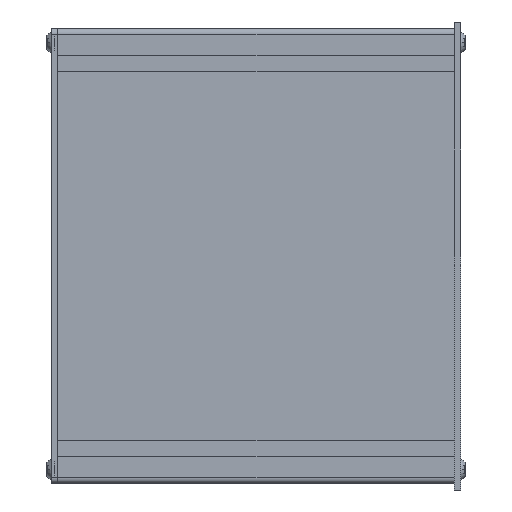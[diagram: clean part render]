
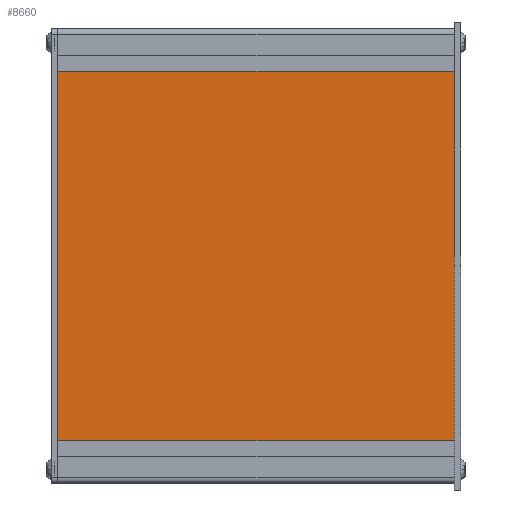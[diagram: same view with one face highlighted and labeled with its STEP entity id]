
A CAD part, left-side view. The second image highlights one B-rep face of the part: STEP entity #8660.
In plain terms, the highlighted planar face has unit normal (-1, 0, 0).
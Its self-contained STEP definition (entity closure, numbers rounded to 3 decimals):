
#952=PLANE('',#9524);
#1250=FACE_OUTER_BOUND('',#1790,.T.);
#1790=EDGE_LOOP('',(#6637,#6638,#6639,#6640));
#2564=LINE('',#13700,#3252);
#2574=LINE('',#13721,#3262);
#2575=LINE('',#13723,#3263);
#2576=LINE('',#13724,#3264);
#3252=VECTOR('',#10976,10.);
#3262=VECTOR('',#10994,10.);
#3263=VECTOR('',#10995,10.);
#3264=VECTOR('',#10996,10.);
#4260=VERTEX_POINT('',#13693);
#4263=VERTEX_POINT('',#13698);
#4270=VERTEX_POINT('',#13720);
#4271=VERTEX_POINT('',#13722);
#5115=EDGE_CURVE('',#4260,#4263,#2564,.T.);
#5125=EDGE_CURVE('',#4260,#4270,#2574,.T.);
#5126=EDGE_CURVE('',#4271,#4263,#2575,.T.);
#5127=EDGE_CURVE('',#4270,#4271,#2576,.T.);
#6637=ORIENTED_EDGE('',*,*,#5125,.F.);
#6638=ORIENTED_EDGE('',*,*,#5115,.T.);
#6639=ORIENTED_EDGE('',*,*,#5126,.F.);
#6640=ORIENTED_EDGE('',*,*,#5127,.F.);
#8660=ADVANCED_FACE('',(#1250),#952,.T.);
#9524=AXIS2_PLACEMENT_3D('',#13719,#10992,#10993);
#10976=DIRECTION('',(0.,1.,0.));
#10992=DIRECTION('center_axis',(-1.,0.,0.));
#10993=DIRECTION('ref_axis',(0.,0.,1.));
#10994=DIRECTION('',(0.,0.,-1.));
#10995=DIRECTION('',(0.,0.,1.));
#10996=DIRECTION('',(0.,1.,0.));
#13693=CARTESIAN_POINT('',(239.,0.,25.8));
#13698=CARTESIAN_POINT('',(239.,150.,25.8));
#13700=CARTESIAN_POINT('',(239.,0.,25.8));
#13719=CARTESIAN_POINT('Origin',(239.,0.,-113.9));
#13720=CARTESIAN_POINT('',(239.,0.,-113.9));
#13721=CARTESIAN_POINT('',(239.,0.,-44.05));
#13722=CARTESIAN_POINT('',(239.,150.,-113.9));
#13723=CARTESIAN_POINT('',(239.,150.,-44.05));
#13724=CARTESIAN_POINT('',(239.,0.,-113.9));
